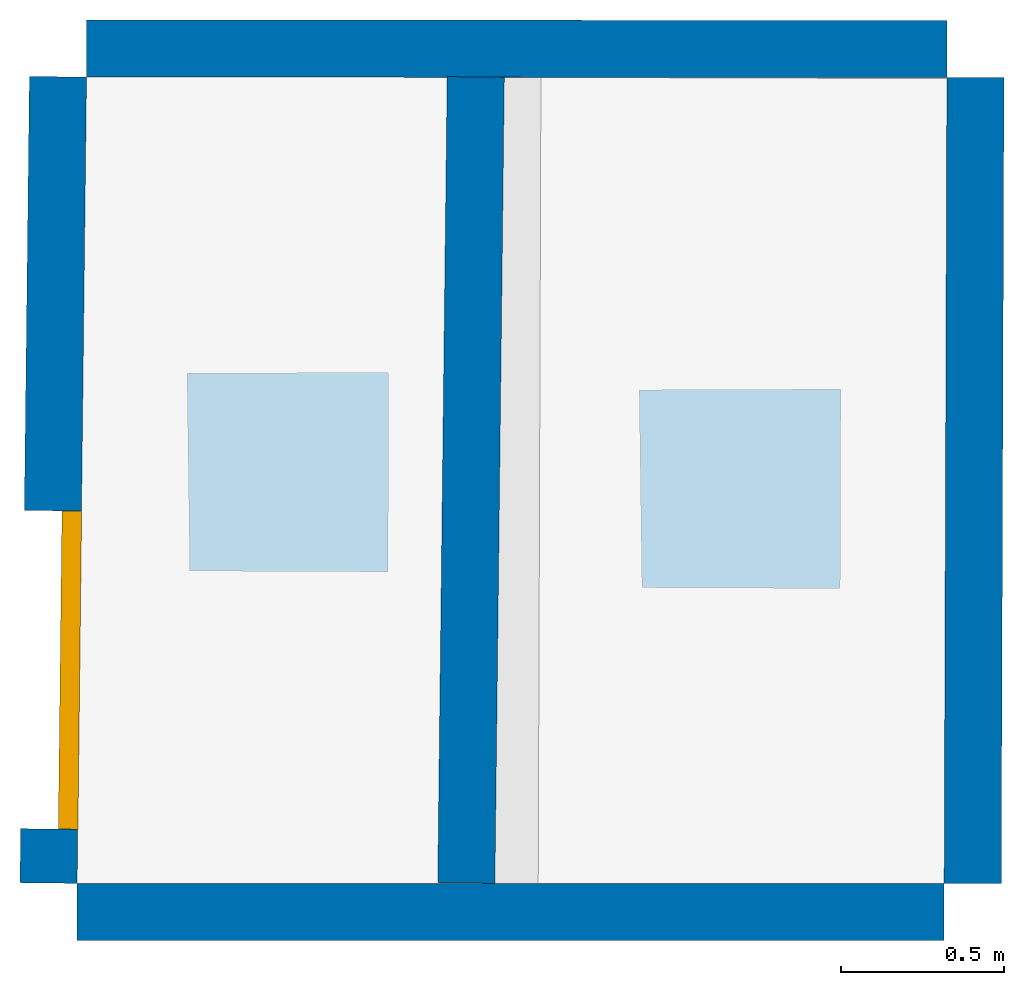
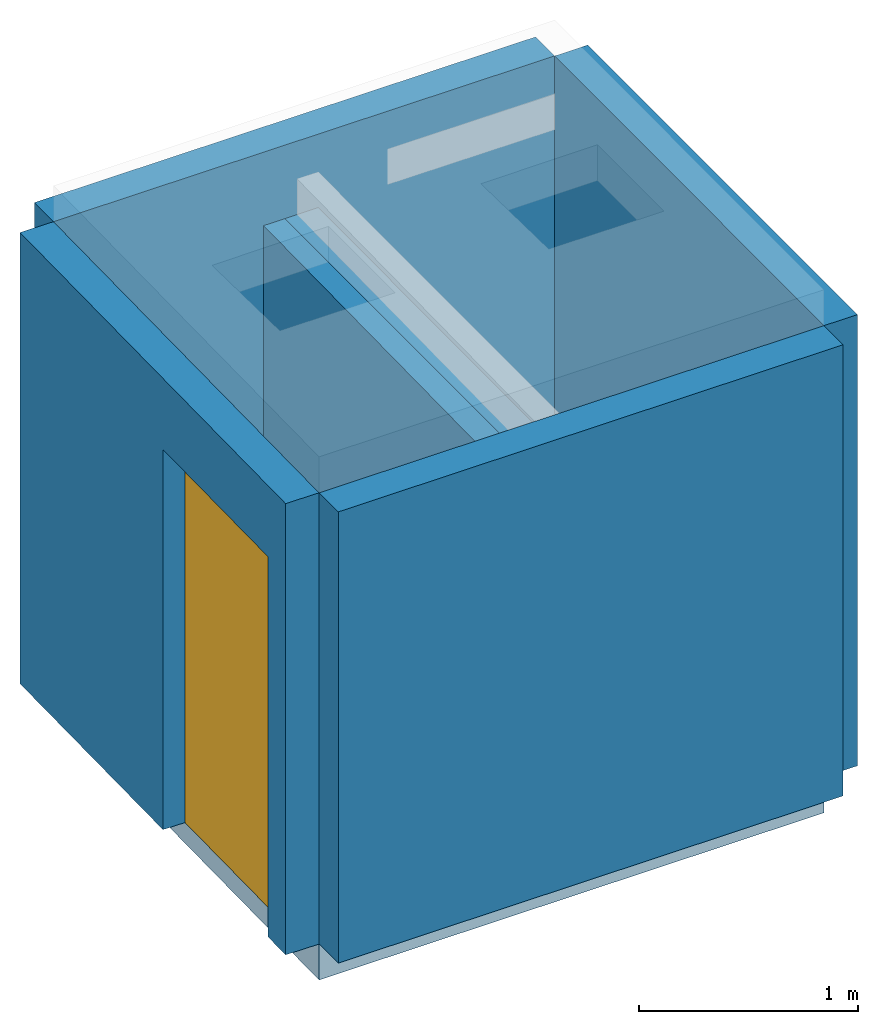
# One storey, incomplete: 6 walls, 1 door, 1 slab, 1 opening.
"""IFC2X3 building model written with IfcOpenShell, lengths in metres."""

from ifc_helpers import new_model, si_unit, direction, frame, origin_with_axes, place, context, project, spatial, polyline, outline, extrude, element, fill, save


model = new_model("IFC2X3")

# Units and contexts
model_context = context("Model", 3, precision=1e-05, world=origin_with_axes(), true_north=direction((1.0, 0.0, 0.0)))
ifc_project = project(units=[si_unit("AREAUNIT", "SQUARE_METRE"), si_unit("LENGTHUNIT", "METRE"), si_unit("PLANEANGLEUNIT", "RADIAN"), si_unit("VOLUMEUNIT", "CUBIC_METRE")], contexts=[model_context])

# Building, storey
building_placement = place(None, origin_with_axes())
building = spatial("IfcBuilding", under=ifc_project, at=building_placement, Name="Gebäude", CompositionType="ELEMENT")
storey_placement = place(building_placement, origin_with_axes())
storey = spatial("IfcBuildingStorey", under=building, at=storey_placement, Name="600 EG", CompositionType="ELEMENT", Elevation=0.0)

# Slab
slab_placement = place(storey_placement, frame((-0.032447, 0.603362, -1.609489), z_axis=(0.0, 0.0, -1.0), x_axis=(-1.0, 0.0, 0.0)))
element("IfcSlab", 1, at=slab_placement, inside=storey, Name="Ground", PredefinedType="FLOOR", context=model_context, shape_type="SweptSolid", body=[
    extrude(outline(polyline([(1.309433, 1.236152, 0.0), (-1.328033, 1.234824, 0.0), (-1.319715, -1.235488, 0.0), (1.338315, -1.235488, 0.0), (1.309433, 1.236152, 0.0)])), origin_with_axes(), (0.0, 0.0, 1.0), 0.2),
])

# Walls
wall_1_placement = place(storey_placement, frame((1.291427, 0.603031, -0.353896), z_axis=(0.999994, -0.003367, 0.0), x_axis=(-0.003367, -0.999994, 0.0)))
element("IfcWallStandardCase", 2, at=wall_1_placement, inside=storey, Name="Wall", context=model_context, shape_type="SweptSolid", body=[
    extrude(outline(polyline([(1.235163, -1.255593, 0.0), (-1.235163, -1.255593, 0.0), (-1.235163, 1.255593, 0.0), (1.235163, 1.255593, 0.0), (1.235163, -1.255593, 0.0)])), origin_with_axes(), (0.0, 0.0, 1.0), 0.175),
])
wall_2_placement = place(storey_placement, frame((-0.041747, -0.632125, -0.353896), z_axis=(0.0, -1.0, 0.0), x_axis=(-1.0, 0.0, 0.0)))
element("IfcWallStandardCase", 3, at=wall_2_placement, inside=storey, Name="Wall", context=model_context, shape_type="SweptSolid", body=[
    extrude(outline(polyline([(-1.329015, -1.255593, 0.0), (1.329015, -1.255593, 0.0), (1.329015, 1.255593, 0.0), (-1.329015, 1.255593, 0.0), (-1.329015, -1.255593, 0.0)])), origin_with_axes(), (0.0, 0.0, 1.0), 0.175),
])

# Wall, opening, door
wall_3_placement = place(storey_placement, frame((-1.356321, 0.603694, -0.353896), z_axis=(-0.999932, 0.011685, 0.0), x_axis=(0.011685, 0.999932, 0.0)))
wall_3 = element("IfcWallStandardCase", 4, at=wall_3_placement, inside=storey, Name="Wall", context=model_context, shape_type="SweptSolid", body=[
    extrude(outline(polyline([(1.235905, -1.255593, 0.0), (-1.235905, -1.255593, 0.0), (-1.235905, 1.255593, 0.0), (1.235905, 1.255593, 0.0), (1.235905, -1.255593, 0.0)])), origin_with_axes(), (0.0, 0.0, 1.0), 0.175),
])
opening_placement = place(storey_placement, frame((-1.362626, 0.021374, -0.551586), z_axis=(-0.999932, 0.011685, 0.0), x_axis=(0.011685, 0.999932, 0.0)))
opening = element("IfcOpeningElement", 5, at=opening_placement, inside=storey, cuts=wall_3, Name="Opening", ObjectType="Opening", context=model_context, shape_type="SweptSolid", body=[
    extrude(outline(polyline([(-0.487801, 1.057903, 0.0), (0.487801, 1.057903, 0.0), (0.487801, -1.057903, 0.0), (-0.487801, -1.057903, 1e-06), (-0.487801, 1.057903, 0.0)])), origin_with_axes(), (0.0, 0.0, 1.0), 0.375),
])
door_placement = place(storey_placement, frame((-1.362626, 0.021374, -0.551586), z_axis=(-0.999932, 0.011685, 0.0), x_axis=(0.011685, 0.999932, 0.0)))
door = element("IfcDoor", 6, at=door_placement, inside=storey, Name="Door", OverallHeight=2.115807, OverallWidth=0.975601, context=model_context, shape_type="SweptSolid", body=[
    extrude(outline(polyline([(-0.487801, 1.057903, 0.0), (0.487801, 1.057903, 0.0), (0.487801, -1.057903, 0.0), (-0.487801, -1.057903, 1e-06), (-0.487801, 1.057903, 0.0)])), origin_with_axes(), (0.0, 0.0, 1.0), 0.06),
])
fill(opening, door)

# Walls
wall_4_placement = place(storey_placement, frame((-0.023147, 1.83885, -0.353896), z_axis=(0.000505, 1.0, 0.0), x_axis=(1.0, -0.000505, 0.0)))
element("IfcWallStandardCase", 7, at=wall_4_placement, inside=storey, Name="Wall", context=model_context, shape_type="SweptSolid", body=[
    extrude(outline(polyline([(-1.318733, -1.255593, -1e-06), (1.318733, -1.255593, 0.0), (1.318733, 1.255593, 1e-06), (-1.318733, 1.255593, 1e-06), (-1.318733, -1.255593, -1e-06)])), origin_with_axes(), (0.0, 0.0, 1.0), 0.175),
])
wall_5_placement = place(storey_placement, frame((-0.075599, 0.603373, -0.558192), z_axis=(-0.999932, 0.011685, 0.0), x_axis=(0.011685, 0.999932, 0.0)))
element("IfcWallStandardCase", 8, at=wall_5_placement, inside=storey, Name="Wall", context=model_context, shape_type="SweptSolid", body=[
    extrude(outline(polyline([(-1.235583, -1.051297, 0.0), (1.235583, -1.051297, 0.0), (1.235583, 1.051297, 0.0), (-1.235583, 1.051297, 0.0), (-1.235583, -1.051297, 0.0)])), origin_with_axes(), (0.0, 0.0, 1.0), 0.175),
])
wall_6_placement = place(storey_placement, frame((0.046947, 0.603344, -0.558192), z_axis=(-0.999994, 0.003367, 0.0), x_axis=(0.003367, 0.999994, 0.0)))
element("IfcWallStandardCase", 9, at=wall_6_placement, inside=storey, Name="Wall", context=model_context, shape_type="SweptSolid", body=[
    extrude(outline(polyline([(-1.235477, 1.051297, 0.0), (1.235477, 1.051297, 0.0), (1.235477, -1.051297, 0.0), (-1.235477, -1.051297, 0.0), (-1.235477, 1.051297, 0.0)])), origin_with_axes(), (0.0, 0.0, 1.0), 0.175),
])

save(model, "model.ifc")
